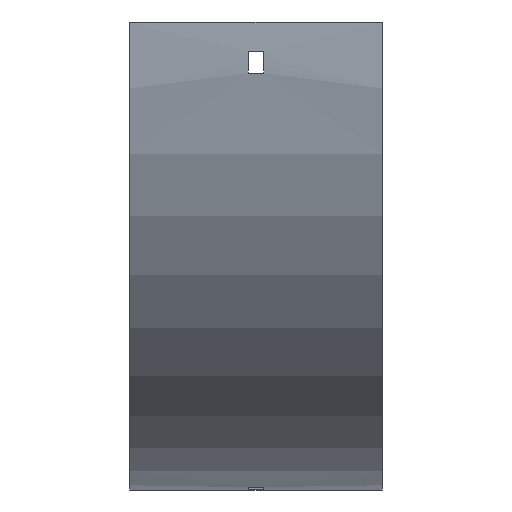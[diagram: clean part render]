
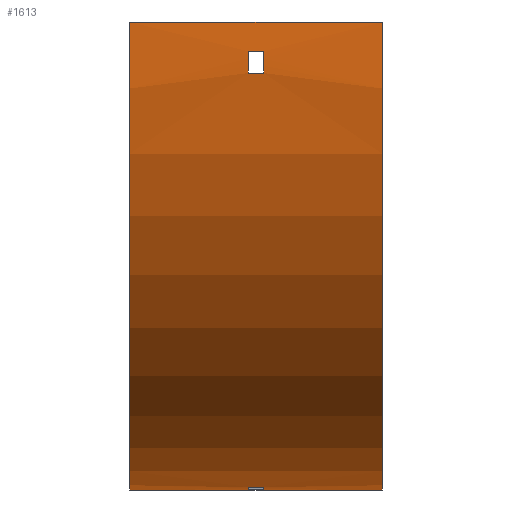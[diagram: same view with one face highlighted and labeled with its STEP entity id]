
A CAD part, front view. The second image highlights one B-rep face of the part: STEP entity #1613.
In plain terms, the highlighted cylindrical face has radius 192.5 mm (diameter 385 mm), a partial arc.
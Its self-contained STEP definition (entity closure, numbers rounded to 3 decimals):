
#12 = CARTESIAN_POINT ( 'NONE',  ( -3.25, -91.351, -21. ) ) ;
#33 = ORIENTED_EDGE ( 'NONE', *, *, #1051, .T. ) ;
#40 = LINE ( 'NONE', #162, #1126 ) ;
#41 = VERTEX_POINT ( 'NONE', #12 ) ;
#53 = CIRCLE ( 'NONE', #356, 192.5 ) ;
#71 = EDGE_LOOP ( 'NONE', ( #952, #634, #789, #1486 ) ) ;
#107 = CIRCLE ( 'NONE', #380, 192.5 ) ;
#150 = CARTESIAN_POINT ( 'NONE',  ( 52., 100., 0. ) ) ;
#154 = EDGE_CURVE ( 'NONE', #41, #1358, #1262, .T. ) ;
#157 = AXIS2_PLACEMENT_3D ( 'NONE', #1660, #1278, #1670 ) ;
#162 = CARTESIAN_POINT ( 'NONE',  ( 52., -92.126, -12. ) ) ;
#180 = EDGE_LOOP ( 'NONE', ( #211, #816, #33, #542 ) ) ;
#187 = VECTOR ( 'NONE', #1107, 1000. ) ;
#211 = ORIENTED_EDGE ( 'NONE', *, *, #1400, .T. ) ;
#226 = FACE_OUTER_BOUND ( 'NONE', #71, .T. ) ;
#236 = EDGE_CURVE ( 'NONE', #1543, #1272, #1057, .T. ) ;
#347 = FACE_BOUND ( 'NONE', #723, .T. ) ;
#356 = AXIS2_PLACEMENT_3D ( 'NONE', #672, #692, #571 ) ;
#360 = CARTESIAN_POINT ( 'NONE',  ( 52., 79., -191.351 ) ) ;
#363 = CARTESIAN_POINT ( 'NONE',  ( 52., 100., 0. ) ) ;
#365 = CARTESIAN_POINT ( 'NONE',  ( 52., -92.5, 0. ) ) ;
#369 = CARTESIAN_POINT ( 'NONE',  ( 3.25, 88., -192.126 ) ) ;
#380 = AXIS2_PLACEMENT_3D ( 'NONE', #150, #1096, #683 ) ;
#404 = LINE ( 'NONE', #965, #187 ) ;
#441 = VERTEX_POINT ( 'NONE', #1332 ) ;
#463 = VERTEX_POINT ( 'NONE', #1368 ) ;
#485 = AXIS2_PLACEMENT_3D ( 'NONE', #1293, #1533, #1153 ) ;
#490 = DIRECTION ( 'NONE',  ( 0., 0., -1. ) ) ;
#516 = VECTOR ( 'NONE', #1276, 1000. ) ;
#522 = DIRECTION ( 'NONE',  ( 0., 1., 0. ) ) ;
#535 = ORIENTED_EDGE ( 'NONE', *, *, #1488, .F. ) ;
#542 = ORIENTED_EDGE ( 'NONE', *, *, #945, .T. ) ;
#551 = VERTEX_POINT ( 'NONE', #1327 ) ;
#571 = DIRECTION ( 'NONE',  ( 0., 0., -1. ) ) ;
#581 = VERTEX_POINT ( 'NONE', #1064 ) ;
#600 = CARTESIAN_POINT ( 'NONE',  ( -3.25, 88., -192.126 ) ) ;
#601 = AXIS2_PLACEMENT_3D ( 'NONE', #363, #1125, #1644 ) ;
#624 = EDGE_CURVE ( 'NONE', #551, #441, #53, .T. ) ;
#625 = CARTESIAN_POINT ( 'NONE',  ( 3.25, 100., 0. ) ) ;
#631 = VECTOR ( 'NONE', #682, 1000. ) ;
#634 = ORIENTED_EDGE ( 'NONE', *, *, #1665, .F. ) ;
#648 = EDGE_CURVE ( 'NONE', #1180, #581, #107, .T. ) ;
#672 = CARTESIAN_POINT ( 'NONE',  ( -52., 100., 0. ) ) ;
#682 = DIRECTION ( 'NONE',  ( 1., 0., 0. ) ) ;
#683 = DIRECTION ( 'NONE',  ( 0., 0., -1. ) ) ;
#692 = DIRECTION ( 'NONE',  ( 1., 0., 0. ) ) ;
#723 = EDGE_LOOP ( 'NONE', ( #535, #982, #1111, #1190 ) ) ;
#789 = ORIENTED_EDGE ( 'NONE', *, *, #648, .F. ) ;
#816 = ORIENTED_EDGE ( 'NONE', *, *, #154, .T. ) ;
#829 = EDGE_CURVE ( 'NONE', #1639, #1579, #1150, .T. ) ;
#851 = CIRCLE ( 'NONE', #989, 192.5 ) ;
#872 = CARTESIAN_POINT ( 'NONE',  ( 3.25, 79., -191.351 ) ) ;
#904 = VECTOR ( 'NONE', #1557, 1000. ) ;
#937 = DIRECTION ( 'NONE',  ( 1., 0., 0. ) ) ;
#945 = EDGE_CURVE ( 'NONE', #463, #1005, #851, .T. ) ;
#947 = CARTESIAN_POINT ( 'NONE',  ( 3.25, -91.351, -21. ) ) ;
#952 = ORIENTED_EDGE ( 'NONE', *, *, #624, .T. ) ;
#965 = CARTESIAN_POINT ( 'NONE',  ( 52., -91.351, -21. ) ) ;
#982 = ORIENTED_EDGE ( 'NONE', *, *, #829, .F. ) ;
#989 = AXIS2_PLACEMENT_3D ( 'NONE', #625, #1666, #490 ) ;
#993 = CARTESIAN_POINT ( 'NONE',  ( 52., -92.5, 0. ) ) ;
#1005 = VERTEX_POINT ( 'NONE', #947 ) ;
#1030 = LINE ( 'NONE', #365, #516 ) ;
#1035 = LINE ( 'NONE', #1442, #1118 ) ;
#1051 = EDGE_CURVE ( 'NONE', #1358, #463, #40, .T. ) ;
#1057 = LINE ( 'NONE', #1073, #631 ) ;
#1064 = CARTESIAN_POINT ( 'NONE',  ( 52., 100., -192.5 ) ) ;
#1073 = CARTESIAN_POINT ( 'NONE',  ( 52., 88., -192.126 ) ) ;
#1096 = DIRECTION ( 'NONE',  ( 1., 0., 0. ) ) ;
#1100 = CARTESIAN_POINT ( 'NONE',  ( -3.25, 100., 0. ) ) ;
#1107 = DIRECTION ( 'NONE',  ( -1., 0., 0. ) ) ;
#1111 = ORIENTED_EDGE ( 'NONE', *, *, #1590, .F. ) ;
#1118 = VECTOR ( 'NONE', #1177, 1000. ) ;
#1125 = DIRECTION ( 'NONE',  ( -1., 0., 0. ) ) ;
#1126 = VECTOR ( 'NONE', #937, 1000. ) ;
#1150 = LINE ( 'NONE', #360, #904 ) ;
#1153 = DIRECTION ( 'NONE',  ( 0., 0., 1. ) ) ;
#1177 = DIRECTION ( 'NONE',  ( -1., 0., 0. ) ) ;
#1180 = VERTEX_POINT ( 'NONE', #993 ) ;
#1190 = ORIENTED_EDGE ( 'NONE', *, *, #236, .F. ) ;
#1225 = DIRECTION ( 'NONE',  ( 1., 0., 0. ) ) ;
#1256 = CARTESIAN_POINT ( 'NONE',  ( -3.25, 79., -191.351 ) ) ;
#1261 = CIRCLE ( 'NONE', #1502, 192.5 ) ;
#1262 = CIRCLE ( 'NONE', #485, 192.5 ) ;
#1272 = VERTEX_POINT ( 'NONE', #369 ) ;
#1276 = DIRECTION ( 'NONE',  ( -1., 0., 0. ) ) ;
#1278 = DIRECTION ( 'NONE',  ( -1., 0., 0. ) ) ;
#1293 = CARTESIAN_POINT ( 'NONE',  ( -3.25, 100., 0. ) ) ;
#1327 = CARTESIAN_POINT ( 'NONE',  ( -52., -92.5, 0. ) ) ;
#1332 = CARTESIAN_POINT ( 'NONE',  ( -52., 100., -192.5 ) ) ;
#1358 = VERTEX_POINT ( 'NONE', #1539 ) ;
#1363 = EDGE_CURVE ( 'NONE', #1180, #551, #1030, .T. ) ;
#1368 = CARTESIAN_POINT ( 'NONE',  ( 3.25, -92.126, -12. ) ) ;
#1382 = CYLINDRICAL_SURFACE ( 'NONE', #601, 192.5 ) ;
#1400 = EDGE_CURVE ( 'NONE', #1005, #41, #404, .T. ) ;
#1442 = CARTESIAN_POINT ( 'NONE',  ( 52., 100., -192.5 ) ) ;
#1486 = ORIENTED_EDGE ( 'NONE', *, *, #1363, .T. ) ;
#1488 = EDGE_CURVE ( 'NONE', #1579, #1543, #1261, .T. ) ;
#1502 = AXIS2_PLACEMENT_3D ( 'NONE', #1100, #1225, #522 ) ;
#1509 = CIRCLE ( 'NONE', #157, 192.5 ) ;
#1520 = FACE_BOUND ( 'NONE', #180, .T. ) ;
#1533 = DIRECTION ( 'NONE',  ( -1., 0., 0. ) ) ;
#1539 = CARTESIAN_POINT ( 'NONE',  ( -3.25, -92.126, -12. ) ) ;
#1543 = VERTEX_POINT ( 'NONE', #600 ) ;
#1557 = DIRECTION ( 'NONE',  ( -1., 0., 0. ) ) ;
#1579 = VERTEX_POINT ( 'NONE', #1256 ) ;
#1590 = EDGE_CURVE ( 'NONE', #1272, #1639, #1509, .T. ) ;
#1613 = ADVANCED_FACE ( 'NONE', ( #226, #1520, #347 ), #1382, .T. ) ;
#1639 = VERTEX_POINT ( 'NONE', #872 ) ;
#1644 = DIRECTION ( 'NONE',  ( 0., 0., 1. ) ) ;
#1660 = CARTESIAN_POINT ( 'NONE',  ( 3.25, 100., 0. ) ) ;
#1665 = EDGE_CURVE ( 'NONE', #581, #441, #1035, .T. ) ;
#1666 = DIRECTION ( 'NONE',  ( 1., 0., 0. ) ) ;
#1670 = DIRECTION ( 'NONE',  ( 0., 0., 1. ) ) ;
